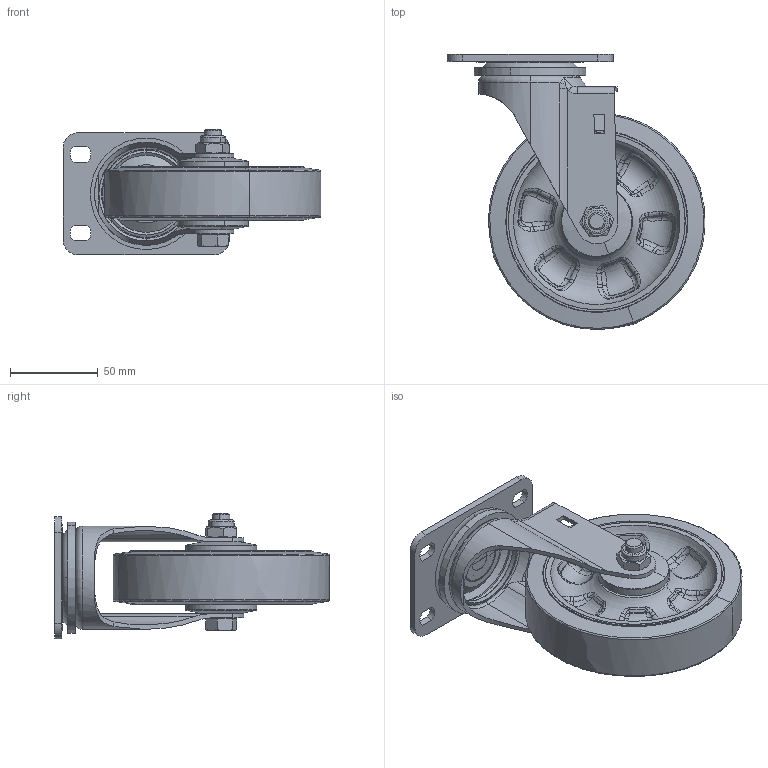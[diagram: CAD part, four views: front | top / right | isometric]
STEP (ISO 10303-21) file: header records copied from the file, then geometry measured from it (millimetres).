
FILE_DESCRIPTION (( 'STEP AP203' ), '1' );
FILE_NAME ('11390500452033.STEP', '2025-04-28T06:28:34', ( 'scd' ), ( '' ), 'SwSTEP 2.0', 'SolidWorks 2024', '' );
FILE_SCHEMA (( 'CONFIG_CONTROL_DESIGN' ));
Length unit declared in the file: millimetre
Products named in the file (11): 11390500452033.STEP; 11390500452033; 5_o_L___j_39____5______AQPU__(2)_39____5______AQPU__.STEP_2.STEP; M10_2_39____5______AQPU__(2)_39____5______AQPU__.STEP_2.STEP; 39系列修改后防尘圈(1); 39____5______AQPU__(2)_39____5______AQPU__.STEP_2.STEP; 39_t_C_____g_v_39____5______AQPU__(2)_39____5______AQPU__.STEP_2.STEP; 39_t_C___O_39____5______AQPU__(2)_39____5______AQPU__.STEP_2.STEP; 39_t_C_W___L_39____5______AQPU__(2)_39____5______AQPU__.STEP_2.STEP; hexagon head bolts gb_GB_FASTENER_BOLT_SB A M10X60-N_39____5______AQPU__(2)_39____5______AQPU__.STEP_2.STEP; ____ 514w0001_5''''''''39________________________________.STEP_1.STEP
Assembly tree (10 placements, depth 4):
  11390500452033
    11390500452033.STEP
      39____5______AQPU__(2)_39____5______AQPU__.STEP_2.STEP
        5_o_L___j_39____5______AQPU__(2)_39____5______AQPU__.STEP_2.STEP
        39_t_C_W___L_39____5______AQPU__(2)_39____5______AQPU__.STEP_2.STEP
        39_t_C_____g_v_39____5______AQPU__(2)_39____5______AQPU__.STEP_2.STEP
        39_t_C___O_39____5______AQPU__(2)_39____5______AQPU__.STEP_2.STEP
        M10_2_39____5______AQPU__(2)_39____5______AQPU__.STEP_2.STEP
        hexagon head bolts gb_GB_FASTENER_BOLT_SB A M10X60-N_39____5______AQPU__(2)_39____5______AQPU__.STEP_2.STEP
      ____ 514w0001_5''''''''39________________________________.STEP_1.STEP
    39系列修改后防尘圈(1)
Bounding box: 147.44 x 157.11 x 72 mm (x, y, z)
Volume: 319949 mm3; surface area: 105629.2 mm2
Topology: 9 solids, 9 shells, 669 faces, 1562 edges, 935 vertices
Faces by surface type: bspline 244, torus 159, cone 95, plane 88, cylinder 83
Entity records: 44400 total; most frequent: CARTESIAN_POINT 31162, ORIENTED_EDGE 3116, DIRECTION 1573, EDGE_CURVE 1558, B_SPLINE_CURVE_WITH_KNOTS 1001, VERTEX_POINT 935, EDGE_LOOP 725, AXIS2_PLACEMENT_3D 679
